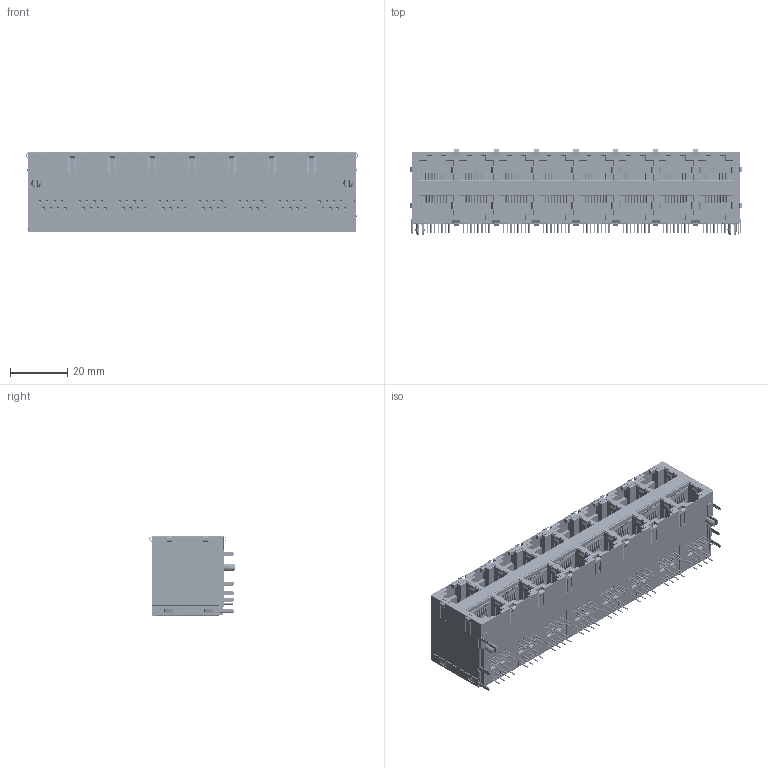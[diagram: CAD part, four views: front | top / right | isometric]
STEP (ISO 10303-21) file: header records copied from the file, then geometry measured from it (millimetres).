
FILE_DESCRIPTION((''),'2;1');
FILE_NAME('DGKYD59212888HWA1D0001_ASM','2020-08-03T09:40:04',('Administrator'),(''),'CREO PARAMETRIC BY PTC INC, 2018400','CREO PARAMETRIC BY PTC INC, 2018400','');
FILE_SCHEMA(('CONFIG_CONTROL_DESIGN'));
Products named in the file (279): SUKE_1; GAIBAN_1_1; GAIBAN_1_2; GAIBAN_1_3; GAIBAN_1_4; GAIBAN_1_5; GAIBAN_1_6; GAIBAN_1_7; GAIBAN_1_8; GAIBAN_1_ASM; ZHEN_1_1; ZHEN_1_2; ZHEN_1_3; ZHEN_1_4; ZHEN_1_5; ZHEN_1_6; ZHEN_1_7; ZHEN_1_8; ZHEN_1_9; ZHEN_1_10; ZHEN_1_11; ZHEN_1_12; ZHEN_1_13; ZHEN_1_14; ZHEN_1_15; ZHEN_1_16; ZHEN_1_17; ZHEN_1_18; ZHEN_1_19; ZHEN_1_20; ZHEN_1_21; ZHEN_1_22; ZHEN_1_23; ZHEN_1_24; ZHEN_1_25; ZHEN_1_26; ZHEN_1_27; ZHEN_1_28; ZHEN_1_29; ZHEN_1_30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
Assembly tree (278 placements, depth 4):
  DGKYD59212888HWA1D0001_ASM
    ASM0004_ASM_1_ASM
      SUKE_1
      GAIBAN_1_ASM
        GAIBAN_1_1
        GAIBAN_1_2
        GAIBAN_1_3
        GAIBAN_1_4
        GAIBAN_1_5
        GAIBAN_1_6
        GAIBAN_1_7
        GAIBAN_1_8
      ZHEN_1_ASM
        ZHEN_1_1
        ZHEN_1_2
        ZHEN_1_3
        ZHEN_1_4
        ZHEN_1_5
        ZHEN_1_6
        ZHEN_1_7
        ZHEN_1_8
        ZHEN_1_9
        ZHEN_1_10
        ZHEN_1_11
        ZHEN_1_12
        ZHEN_1_13
        ZHEN_1_14
        ZHEN_1_15
        ZHEN_1_16
        ZHEN_1_17
        ZHEN_1_18
        ZHEN_1_19
        ZHEN_1_20
        ZHEN_1_21
        ZHEN_1_22
        ZHEN_1_23
        ZHEN_1_24
        ZHEN_1_25
        ZHEN_1_26
        ZHEN_1_27
        ZHEN_1_28
        ZHEN_1_29
        ZHEN_1_30
        ZHEN_1_31
        ZHEN_1_32
        ZHEN_1_33
        ZHEN_1_34
        ZHEN_1_35
        ZHEN_1_36
        ZHEN_1_37
        ZHEN_1_38
        ZHEN_1_39
        ZHEN_1_40
        ZHEN_1_41
        ZHEN_1_42
        ZHEN_1_43
        ZHEN_1_44
        ZHEN_1_45
        ZHEN_1_46
        ZHEN_1_47
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Bounding box: 116.18 x 29.85 x 28 mm (x, y, z)
Volume: 60288.6 mm3; surface area: 55152.8 mm2
Topology: 272 solids, 272 shells, 6855 faces, 18159 edges, 11698 vertices
Faces by surface type: plane 4016, cylinder 2279, torus 536, bspline 16, cone 8
Entity records: 220815 total; most frequent: CARTESIAN_POINT 40864, DIRECTION 38001, ORIENTED_EDGE 36318, EDGE_CURVE 18159, AXIS2_PLACEMENT_3D 12831, VECTOR 12339, LINE 12339, VERTEX_POINT 11698
